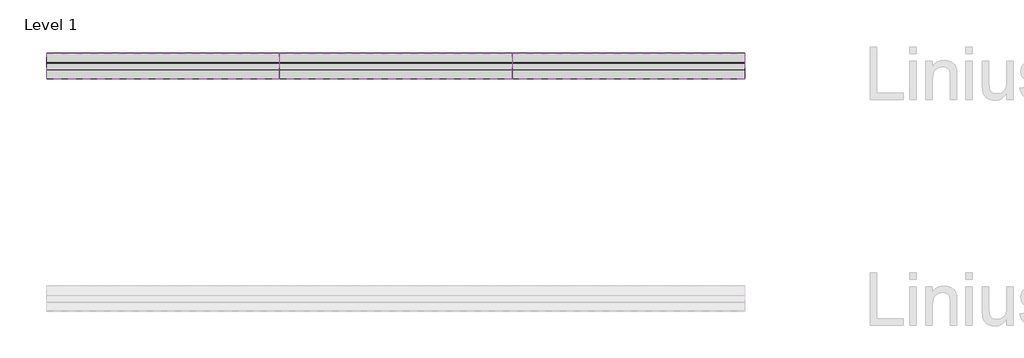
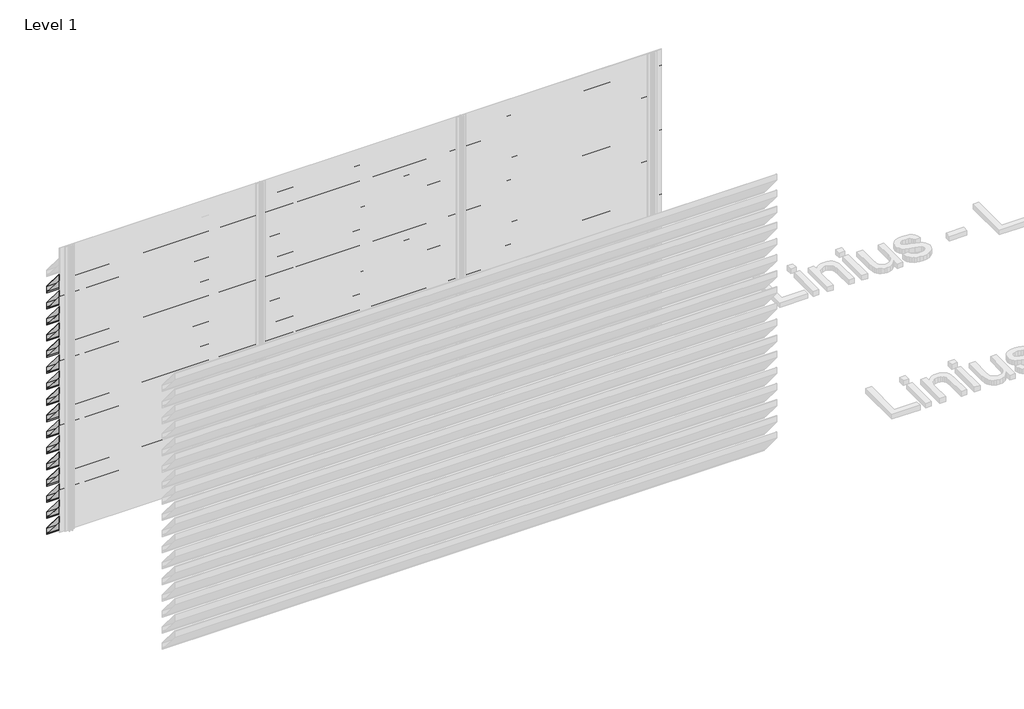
# One storey, part 8 of 121: 50 proxies.
"""IFC4 building model written with IfcOpenShell, lengths in millimetres."""

import ifcopenshell
import ifcopenshell.guid

model = None  # the IFC model being written
_history = None  # IfcOwnerHistory: only IFC2X3 demands one
_inside = {}  # id of a spatial element -> (the spatial element, [elements in it])
_under = {}  # id of a project, library or spatial element -> (it, [spatial elements below it])
_declared = {}  # id of a project -> (the project, [libraries it declares])
_typed = {}  # id of a type object -> (the type object, [elements of that type])
_made_of = {}  # id of a material, layer set ... -> (it, [elements and type objects made of it])


def new_model(schema):
    """Start an empty IFC model of exactly this schema.

    Asked for "IFC4X3", IfcOpenShell would pick the latest addendum, in which some entities
    have other attributes; the version numbers below select the first issue.
    IFC2X3 requires an IfcOwnerHistory on every rooted entity: one is made here for all.
    """
    global model, _history
    if schema == "IFC4X3":
        model = ifcopenshell.file(schema_version=(4, 3, 0, 0))
    else:
        model = ifcopenshell.file(schema=schema)
    _inside.clear()
    _under.clear()
    _declared.clear()
    _typed.clear()
    _made_of.clear()
    _history = None
    if model.schema == "IFC2X3":
        org = make("IfcOrganization", Name="unknown")
        user = make(
            "IfcPersonAndOrganization",
            ThePerson=make("IfcPerson", FamilyName="unknown"),
            TheOrganization=org,
        )
        app = make(
            "IfcApplication",
            ApplicationDeveloper=org,
            Version="unknown",
            ApplicationFullName="unknown",
            ApplicationIdentifier="unknown",
        )
        _history = make(
            "IfcOwnerHistory",
            OwningUser=user,
            OwningApplication=app,
            ChangeAction="ADDED",
            CreationDate=0,
        )
    return model


def make(cls, **values):
    """One entity of the class cls with the attributes given. An attribute that is None is left unset."""
    return model.create_entity(
        cls, **{name: value for name, value in values.items() if value is not None}
    )


def rooted(cls, **values):
    """An entity with a GlobalId (a new one), such as an element, a storey or a relation."""
    return make(cls, GlobalId=ifcopenshell.guid.new(), OwnerHistory=_history, **values)


def si_unit(unit_type, name, prefix=None):
    """IfcSIUnit, for example si_unit("LENGTHUNIT", "METRE", prefix="MILLI")."""
    return make("IfcSIUnit", UnitType=unit_type, Prefix=prefix, Name=name)


def assignment(units):
    """IfcUnitAssignment: the units of a project."""
    return None if units is None else make("IfcUnitAssignment", Units=units)


def point(xyz):
    """IfcCartesianPoint."""
    return None if xyz is None else make("IfcCartesianPoint", Coordinates=xyz)


def direction(xyz):
    """IfcDirection."""
    return None if xyz is None else make("IfcDirection", DirectionRatios=xyz)


def frame(location, z_axis=None, x_axis=None):
    """IfcAxis2Placement3D, a coordinate frame: its origin and axes. An axis left out is left unset."""
    return make(
        "IfcAxis2Placement3D",
        Location=point(location),
        Axis=direction(z_axis),
        RefDirection=direction(x_axis),
    )


def origin():
    """The frame at (0, 0, 0) with its axes left unset."""
    return frame((0.0, 0.0, 0.0))


def place(relative_to, where):
    """IfcLocalPlacement: puts the frame where relative to a parent placement (None: the world)."""
    return make(
        "IfcLocalPlacement", PlacementRelTo=relative_to, RelativePlacement=where
    )


def context(
    kind, dimensions, precision=None, world=None, true_north=None, identifier=None
):
    """IfcGeometricRepresentationContext, for example the 3D "Model" context."""
    return make(
        "IfcGeometricRepresentationContext",
        ContextIdentifier=identifier,
        ContextType=kind,
        CoordinateSpaceDimension=dimensions,
        Precision=precision,
        WorldCoordinateSystem=world,
        TrueNorth=true_north,
    )


def project(units=None, contexts=None):
    """IfcProject with its units and contexts."""
    return rooted(
        "IfcProject",
        Name="project",
        RepresentationContexts=contexts,
        UnitsInContext=assignment(units),
    )


def spatial(cls, under=None, at=None, **own):
    """A site, building, storey or space (cls), placed at a placement, below another one or the project."""
    s = rooted(cls, ObjectPlacement=at, **own)
    if under is not None:
        _under.setdefault(under.id(), (under, []))[1].append(s)
    return s


def polyline(points):
    """IfcPolyline through the points."""
    return make("IfcPolyline", Points=[point(p) for p in points])


def outline(outer, holes=None, kind="AREA"):
    """IfcArbitraryClosedProfileDef: a profile drawn as a closed curve; with holes, ...WithVoids."""
    if holes is None:
        return make("IfcArbitraryClosedProfileDef", ProfileType=kind, OuterCurve=outer)
    return make(
        "IfcArbitraryProfileDefWithVoids",
        ProfileType=kind,
        OuterCurve=outer,
        InnerCurves=holes,
    )


def extrude(swept, where, along, depth):
    """IfcExtrudedAreaSolid: the profile swept, set in the frame where, extruded along a direction by depth."""
    return make(
        "IfcExtrudedAreaSolid",
        SweptArea=swept,
        Position=where,
        ExtrudedDirection=direction(along),
        Depth=depth,
    )


def shape(context_of_items, identifier, shape_type, items):
    """IfcShapeRepresentation: the items that make up one representation, for example the "Body"."""
    return make(
        "IfcShapeRepresentation",
        ContextOfItems=context_of_items,
        RepresentationIdentifier=identifier,
        RepresentationType=shape_type,
        Items=items,
    )


def made_of(thing, what):
    """Note that an element or type object is made of a material, layer set ...; save() writes the relation."""
    if what is not None:
        _made_of.setdefault(what.id(), (what, []))[1].append(thing)
    return thing


def element(
    cls,
    number,
    at=None,
    inside=None,
    cuts=None,
    type_object=None,
    material=None,
    context=None,
    identifier="Body",
    shape_type=None,
    held_by="IfcProductDefinitionShape",
    body=None,
    shapes=None,
    **own,
):
    """One element of the class cls, such as IfcWall. Its Tag is "e" and its number.

    at: its placement. inside: the storey or other place that contains it. cuts: it is an
    opening in that element (IfcRelVoidsElement). A single representation is given by context,
    identifier, shape_type and body (its items); several are given by shapes. held_by: the class
    of the entity that holds the representations. save() writes the other relations.
    """
    e = rooted(cls, Tag="e%d" % number, ObjectPlacement=at, **own)
    if body is not None:
        shapes = [shape(context, identifier, shape_type, body)]
    if shapes is not None:
        e.Representation = make(held_by, Representations=shapes)
    if inside is not None:
        _inside.setdefault(inside.id(), (inside, []))[1].append(e)
    if cuts is not None:
        rooted(
            "IfcRelVoidsElement", RelatingBuildingElement=cuts, RelatedOpeningElement=e
        )
    if type_object is not None:
        _typed.setdefault(type_object.id(), (type_object, []))[1].append(e)
    return made_of(e, material)


def aggregate(whole, parts):
    """IfcRelAggregates: a whole, such as a stair, and the parts it consists of."""
    return rooted("IfcRelAggregates", RelatingObject=whole, RelatedObjects=parts)


def save(model, path):
    """Write the relations noted so far, then the file.

    IfcRelAggregates (storeys below a building ...), IfcRelContainedInSpatialStructure (elements
    in a storey), IfcRelDefinesByType, IfcRelAssociatesMaterial and IfcRelDeclares: one each for
    every whole, place, type object, material and project.
    """
    for whole, parts in _under.values():
        aggregate(whole, parts)
    for where, things in _inside.values():
        rooted(
            "IfcRelContainedInSpatialStructure",
            RelatedElements=things,
            RelatingStructure=where,
        )
    for kind, things in _typed.values():
        rooted("IfcRelDefinesByType", RelatedObjects=things, RelatingType=kind)
    for what, things in _made_of.values():
        rooted("IfcRelAssociatesMaterial", RelatedObjects=things, RelatingMaterial=what)
    for by, libraries in _declared.values():
        rooted("IfcRelDeclares", RelatingContext=by, RelatedDefinitions=libraries)
    model.write(path)


model = new_model("IFC4")

# Units and contexts
model_context = context("Model", 3, world=origin())
ifc_project = project(units=[si_unit("LENGTHUNIT", "METRE", prefix="MILLI")], contexts=[model_context])

# Site, building, storey
site = spatial("IfcSite", under=ifc_project)
building = spatial("IfcBuilding", under=site)
storey = spatial("IfcBuildingStorey", under=building, Name="Level 1", Elevation=0.0)

# Proxies
placement = place(None, origin())
element("IfcBuildingElementProxy", 1, Name="Wall Sweeps", at=placement, inside=storey, context=model_context, shape_type="SweptSolid", body=[
    extrude(outline(polyline([(7209.0270068, 2461.0), (7209.0270068, 2392.0), (7206.5270068, 2393.1657691), (7206.5270068, 2406.7059843), (7189.7771397, 2426.6676986), (7179.0919003, 2426.6676986), (6987.0270068, 2655.5617253), (6987.0270068, 2720.0), (6991.7002023, 2720.0), (7209.0270068, 2461.0)]), holes=[polyline([(6990.8142178, 2718.1), (6988.9270068, 2718.1), (6988.9270068, 2656.2532688), (7179.9778848, 2428.5676986), (7190.6631243, 2428.5676986), (7207.1270068, 2408.9468074), (7207.1270068, 2460.3084566), (6990.8142178, 2718.1)])]), frame((466.6208097, 0.0, 0.0), z_axis=(1.0, 0.0, 0.0), x_axis=(0.0, 1.0, 0.0)), (0.0, 0.0, 1.0), 2000.0),
])
element("IfcBuildingElementProxy", 2, Name="Wall Sweeps", at=placement, inside=storey, context=model_context, shape_type="SweptSolid", body=[
    extrude(outline(polyline([(7209.0270068, 2291.0), (7209.0270068, 2222.0), (7206.5270068, 2223.1657691), (7206.5270068, 2236.7059843), (7189.7771397, 2256.6676986), (7179.0919003, 2256.6676986), (6987.0270068, 2485.5617253), (6987.0270068, 2550.0), (6991.7002023, 2550.0), (7209.0270068, 2291.0)]), holes=[polyline([(6990.8142178, 2548.1), (6988.9270068, 2548.1), (6988.9270068, 2486.2532688), (7179.9778848, 2258.5676986), (7190.6631243, 2258.5676986), (7207.1270068, 2238.9468074), (7207.1270068, 2290.3084566), (6990.8142178, 2548.1)])]), frame((466.6208097, 0.0, 0.0), z_axis=(1.0, 0.0, 0.0), x_axis=(0.0, 1.0, 0.0)), (0.0, 0.0, 1.0), 2000.0),
])
element("IfcBuildingElementProxy", 3, Name="Wall Sweeps", at=placement, inside=storey, context=model_context, shape_type="SweptSolid", body=[
    extrude(outline(polyline([(7209.0270068, 2121.0), (7209.0270068, 2052.0), (7206.5270068, 2053.1657691), (7206.5270068, 2066.7059843), (7189.7771397, 2086.6676986), (7179.0919003, 2086.6676986), (6987.0270068, 2315.5617253), (6987.0270068, 2380.0), (6991.7002023, 2380.0), (7209.0270068, 2121.0)]), holes=[polyline([(6990.8142178, 2378.1), (6988.9270068, 2378.1), (6988.9270068, 2316.2532688), (7179.9778848, 2088.5676986), (7190.6631243, 2088.5676986), (7207.1270068, 2068.9468074), (7207.1270068, 2120.3084566), (6990.8142178, 2378.1)])]), frame((466.6208097, 0.0, 0.0), z_axis=(1.0, 0.0, 0.0), x_axis=(0.0, 1.0, 0.0)), (0.0, 0.0, 1.0), 2000.0),
])
element("IfcBuildingElementProxy", 4, Name="Wall Sweeps", at=placement, inside=storey, context=model_context, shape_type="SweptSolid", body=[
    extrude(outline(polyline([(7209.0270068, 1951.0), (7209.0270068, 1882.0), (7206.5270068, 1883.1657691), (7206.5270068, 1896.7059843), (7189.7771397, 1916.6676986), (7179.0919003, 1916.6676986), (6987.0270068, 2145.5617253), (6987.0270068, 2210.0), (6991.7002023, 2210.0), (7209.0270068, 1951.0)]), holes=[polyline([(6990.8142178, 2208.1), (6988.9270068, 2208.1), (6988.9270068, 2146.2532688), (7179.9778848, 1918.5676986), (7190.6631243, 1918.5676986), (7207.1270068, 1898.9468074), (7207.1270068, 1950.3084566), (6990.8142178, 2208.1)])]), frame((466.6208097, 0.0, 0.0), z_axis=(1.0, 0.0, 0.0), x_axis=(0.0, 1.0, 0.0)), (0.0, 0.0, 1.0), 2000.0),
])
element("IfcBuildingElementProxy", 5, Name="Wall Sweeps", at=placement, inside=storey, context=model_context, shape_type="SweptSolid", body=[
    extrude(outline(polyline([(7209.0270068, 1781.0), (7209.0270068, 1712.0), (7206.5270068, 1713.1657691), (7206.5270068, 1726.7059843), (7189.7771397, 1746.6676986), (7179.0919003, 1746.6676986), (6987.0270068, 1975.5617253), (6987.0270068, 2040.0), (6991.7002023, 2040.0), (7209.0270068, 1781.0)]), holes=[polyline([(6990.8142178, 2038.1), (6988.9270068, 2038.1), (6988.9270068, 1976.2532688), (7179.9778848, 1748.5676986), (7190.6631243, 1748.5676986), (7207.1270068, 1728.9468074), (7207.1270068, 1780.3084566), (6990.8142178, 2038.1)])]), frame((466.6208097, 0.0, 0.0), z_axis=(1.0, 0.0, 0.0), x_axis=(0.0, 1.0, 0.0)), (0.0, 0.0, 1.0), 2000.0),
])
element("IfcBuildingElementProxy", 6, Name="Wall Sweeps", at=placement, inside=storey, context=model_context, shape_type="SweptSolid", body=[
    extrude(outline(polyline([(7209.0270068, 1611.0), (7209.0270068, 1542.0), (7206.5270068, 1543.1657691), (7206.5270068, 1556.7059843), (7189.7771397, 1576.6676986), (7179.0919003, 1576.6676986), (6987.0270068, 1805.5617253), (6987.0270068, 1870.0), (6991.7002023, 1870.0), (7209.0270068, 1611.0)]), holes=[polyline([(6990.8142178, 1868.1), (6988.9270068, 1868.1), (6988.9270068, 1806.2532688), (7179.9778848, 1578.5676986), (7190.6631243, 1578.5676986), (7207.1270068, 1558.9468074), (7207.1270068, 1610.3084566), (6990.8142178, 1868.1)])]), frame((466.6208097, 0.0, 0.0), z_axis=(1.0, 0.0, 0.0), x_axis=(0.0, 1.0, 0.0)), (0.0, 0.0, 1.0), 2000.0),
])
element("IfcBuildingElementProxy", 7, Name="Wall Sweeps", at=placement, inside=storey, context=model_context, shape_type="SweptSolid", body=[
    extrude(outline(polyline([(7209.0270068, 1441.0), (7209.0270068, 1372.0), (7206.5270068, 1373.1657691), (7206.5270068, 1386.7059843), (7189.7771397, 1406.6676986), (7179.0919003, 1406.6676986), (6987.0270068, 1635.5617253), (6987.0270068, 1700.0), (6991.7002023, 1700.0), (7209.0270068, 1441.0)]), holes=[polyline([(6990.8142178, 1698.1), (6988.9270068, 1698.1), (6988.9270068, 1636.2532688), (7179.9778848, 1408.5676986), (7190.6631243, 1408.5676986), (7207.1270068, 1388.9468074), (7207.1270068, 1440.3084566), (6990.8142178, 1698.1)])]), frame((466.6208097, 0.0, 0.0), z_axis=(1.0, 0.0, 0.0), x_axis=(0.0, 1.0, 0.0)), (0.0, 0.0, 1.0), 2000.0),
])
element("IfcBuildingElementProxy", 8, Name="Wall Sweeps", at=placement, inside=storey, context=model_context, shape_type="SweptSolid", body=[
    extrude(outline(polyline([(7209.0270068, 1271.0), (7209.0270068, 1202.0), (7206.5270068, 1203.1657691), (7206.5270068, 1216.7059843), (7189.7771397, 1236.6676986), (7179.0919003, 1236.6676986), (6987.0270068, 1465.5617253), (6987.0270068, 1530.0), (6991.7002023, 1530.0), (7209.0270068, 1271.0)]), holes=[polyline([(6990.8142178, 1528.1), (6988.9270068, 1528.1), (6988.9270068, 1466.2532688), (7179.9778848, 1238.5676986), (7190.6631243, 1238.5676986), (7207.1270068, 1218.9468074), (7207.1270068, 1270.3084566), (6990.8142178, 1528.1)])]), frame((466.6208097, 0.0, 0.0), z_axis=(1.0, 0.0, 0.0), x_axis=(0.0, 1.0, 0.0)), (0.0, 0.0, 1.0), 2000.0),
])
element("IfcBuildingElementProxy", 9, Name="Wall Sweeps", at=placement, inside=storey, context=model_context, shape_type="SweptSolid", body=[
    extrude(outline(polyline([(7209.0270068, 1101.0), (7209.0270068, 1032.0), (7206.5270068, 1033.1657691), (7206.5270068, 1046.7059843), (7189.7771397, 1066.6676986), (7179.0919003, 1066.6676986), (6987.0270068, 1295.5617253), (6987.0270068, 1360.0), (6991.7002023, 1360.0), (7209.0270068, 1101.0)]), holes=[polyline([(6990.8142178, 1358.1), (6988.9270068, 1358.1), (6988.9270068, 1296.2532688), (7179.9778848, 1068.5676986), (7190.6631243, 1068.5676986), (7207.1270068, 1048.9468074), (7207.1270068, 1100.3084566), (6990.8142178, 1358.1)])]), frame((466.6208097, 0.0, 0.0), z_axis=(1.0, 0.0, 0.0), x_axis=(0.0, 1.0, 0.0)), (0.0, 0.0, 1.0), 2000.0),
])
element("IfcBuildingElementProxy", 10, Name="Wall Sweeps", at=placement, inside=storey, context=model_context, shape_type="SweptSolid", body=[
    extrude(outline(polyline([(7209.0270068, 931.0), (7209.0270068, 862.0), (7206.5270068, 863.1657691), (7206.5270068, 876.7059843), (7189.7771397, 896.6676986), (7179.0919003, 896.6676986), (6987.0270068, 1125.5617253), (6987.0270068, 1190.0), (6991.7002023, 1190.0), (7209.0270068, 931.0)]), holes=[polyline([(6990.8142178, 1188.1), (6988.9270068, 1188.1), (6988.9270068, 1126.2532688), (7179.9778848, 898.5676986), (7190.6631243, 898.5676986), (7207.1270068, 878.9468074), (7207.1270068, 930.3084566), (6990.8142178, 1188.1)])]), frame((466.6208097, 0.0, 0.0), z_axis=(1.0, 0.0, 0.0), x_axis=(0.0, 1.0, 0.0)), (0.0, 0.0, 1.0), 2000.0),
])
element("IfcBuildingElementProxy", 11, Name="Wall Sweeps", at=placement, inside=storey, context=model_context, shape_type="SweptSolid", body=[
    extrude(outline(polyline([(7209.0270068, 761.0), (7209.0270068, 692.0), (7206.5270068, 693.1657691), (7206.5270068, 706.7059843), (7189.7771397, 726.6676986), (7179.0919003, 726.6676986), (6987.0270068, 955.5617253), (6987.0270068, 1020.0), (6991.7002023, 1020.0), (7209.0270068, 761.0)]), holes=[polyline([(6990.8142178, 1018.1), (6988.9270068, 1018.1), (6988.9270068, 956.2532688), (7179.9778848, 728.5676986), (7190.6631243, 728.5676986), (7207.1270068, 708.9468074), (7207.1270068, 760.3084566), (6990.8142178, 1018.1)])]), frame((466.6208097, 0.0, 0.0), z_axis=(1.0, 0.0, 0.0), x_axis=(0.0, 1.0, 0.0)), (0.0, 0.0, 1.0), 2000.0),
])
element("IfcBuildingElementProxy", 12, Name="Wall Sweeps", at=placement, inside=storey, context=model_context, shape_type="SweptSolid", body=[
    extrude(outline(polyline([(7209.0270068, 591.0), (7209.0270068, 522.0), (7206.5270068, 523.1657691), (7206.5270068, 536.7059843), (7189.7771397, 556.6676986), (7179.0919003, 556.6676986), (6987.0270068, 785.5617253), (6987.0270068, 850.0), (6991.7002023, 850.0), (7209.0270068, 591.0)]), holes=[polyline([(6990.8142178, 848.1), (6988.9270068, 848.1), (6988.9270068, 786.2532688), (7179.9778848, 558.5676986), (7190.6631243, 558.5676986), (7207.1270068, 538.9468074), (7207.1270068, 590.3084566), (6990.8142178, 848.1)])]), frame((466.6208097, 0.0, 0.0), z_axis=(1.0, 0.0, 0.0), x_axis=(0.0, 1.0, 0.0)), (0.0, 0.0, 1.0), 2000.0),
])
element("IfcBuildingElementProxy", 13, Name="Wall Sweeps", at=placement, inside=storey, context=model_context, shape_type="SweptSolid", body=[
    extrude(outline(polyline([(7209.0270068, 421.0), (7209.0270068, 352.0), (7206.5270068, 353.1657691), (7206.5270068, 366.7059843), (7189.7771397, 386.6676986), (7179.0919003, 386.6676986), (6987.0270068, 615.5617253), (6987.0270068, 680.0), (6991.7002023, 680.0), (7209.0270068, 421.0)]), holes=[polyline([(6990.8142178, 678.1), (6988.9270068, 678.1), (6988.9270068, 616.2532688), (7179.9778848, 388.5676986), (7190.6631243, 388.5676986), (7207.1270068, 368.9468074), (7207.1270068, 420.3084566), (6990.8142178, 678.1)])]), frame((466.6208097, 0.0, 0.0), z_axis=(1.0, 0.0, 0.0), x_axis=(0.0, 1.0, 0.0)), (0.0, 0.0, 1.0), 2000.0),
])
element("IfcBuildingElementProxy", 14, Name="Wall Sweeps", at=placement, inside=storey, context=model_context, shape_type="SweptSolid", body=[
    extrude(outline(polyline([(7209.0270068, 251.0), (7209.0270068, 182.0), (7206.5270068, 183.1657691), (7206.5270068, 196.7059843), (7189.7771397, 216.6676986), (7179.0919003, 216.6676986), (6987.0270068, 445.5617253), (6987.0270068, 510.0), (6991.7002023, 510.0), (7209.0270068, 251.0)]), holes=[polyline([(6990.8142178, 508.1), (6988.9270068, 508.1), (6988.9270068, 446.2532688), (7179.9778848, 218.5676986), (7190.6631243, 218.5676986), (7207.1270068, 198.9468074), (7207.1270068, 250.3084566), (6990.8142178, 508.1)])]), frame((466.6208097, 0.0, 0.0), z_axis=(1.0, 0.0, 0.0), x_axis=(0.0, 1.0, 0.0)), (0.0, 0.0, 1.0), 2000.0),
])
element("IfcBuildingElementProxy", 15, Name="Wall Sweeps", at=placement, inside=storey, context=model_context, shape_type="SweptSolid", body=[
    extrude(outline(polyline([(7209.0270068, 81.0), (7209.0270068, 12.0), (7206.5270068, 13.1657691), (7206.5270068, 26.7059843), (7189.7771397, 46.6676986), (7179.0919003, 46.6676986), (6987.0270068, 275.5617253), (6987.0270068, 340.0), (6991.7002023, 340.0), (7209.0270068, 81.0)]), holes=[polyline([(6990.8142178, 338.1), (6988.9270068, 338.1), (6988.9270068, 276.2532688), (7179.9778848, 48.5676986), (7190.6631243, 48.5676986), (7207.1270068, 28.9468074), (7207.1270068, 80.3084566), (6990.8142178, 338.1)])]), frame((466.6208097, 0.0, 0.0), z_axis=(1.0, 0.0, 0.0), x_axis=(0.0, 1.0, 0.0)), (0.0, 0.0, 1.0), 2000.0),
])
element("IfcBuildingElementProxy", 16, Name="Wall Sweeps", at=placement, inside=storey, context=model_context, shape_type="SweptSolid", body=[
    extrude(outline(polyline([(7209.0270068, -89.0), (7209.0270068, -158.0), (7206.5270068, -156.8342309), (7206.5270068, -143.2940157), (7189.7771397, -123.3323014), (7179.0919003, -123.3323014), (6987.0270068, 105.5617253), (6987.0270068, 170.0), (6991.7002023, 170.0), (7209.0270068, -89.0)]), holes=[polyline([(6990.8142178, 168.1), (6988.9270068, 168.1), (6988.9270068, 106.2532688), (7179.9778848, -121.4323014), (7190.6631243, -121.4323014), (7207.1270068, -141.0531926), (7207.1270068, -89.6915434), (6990.8142178, 168.1)])]), frame((466.6208097, 0.0, 0.0), z_axis=(1.0, 0.0, 0.0), x_axis=(0.0, 1.0, 0.0)), (0.0, 0.0, 1.0), 2000.0),
])
element("IfcBuildingElementProxy", 17, Name="Wall Sweeps", at=placement, inside=storey, context=model_context, shape_type="SweptSolid", body=[
    extrude(outline(polyline([(7209.0270068, 2631.0), (7209.0270068, 2562.0), (7206.5270068, 2563.1657691), (7206.5270068, 2576.7059843), (7189.7771397, 2596.6676986), (7179.0919003, 2596.6676986), (6987.0270068, 2825.5617253), (6987.0270068, 2890.0), (6991.7002023, 2890.0), (7209.0270068, 2631.0)]), holes=[polyline([(6990.8142178, 2888.1), (6988.9270068, 2888.1), (6988.9270068, 2826.2532688), (7179.9778848, 2598.5676986), (7190.6631243, 2598.5676986), (7207.1270068, 2578.9468074), (7207.1270068, 2630.3084566), (6990.8142178, 2888.1)])]), frame((2466.6208097, 0.0, 0.0), z_axis=(1.0, 0.0, 0.0), x_axis=(0.0, 1.0, 0.0)), (0.0, 0.0, 1.0), 2000.0),
])
element("IfcBuildingElementProxy", 18, Name="Wall Sweeps", at=placement, inside=storey, context=model_context, shape_type="SweptSolid", body=[
    extrude(outline(polyline([(7209.0270068, 2461.0), (7209.0270068, 2392.0), (7206.5270068, 2393.1657691), (7206.5270068, 2406.7059843), (7189.7771397, 2426.6676986), (7179.0919003, 2426.6676986), (6987.0270068, 2655.5617253), (6987.0270068, 2720.0), (6991.7002023, 2720.0), (7209.0270068, 2461.0)]), holes=[polyline([(6990.8142178, 2718.1), (6988.9270068, 2718.1), (6988.9270068, 2656.2532688), (7179.9778848, 2428.5676986), (7190.6631243, 2428.5676986), (7207.1270068, 2408.9468074), (7207.1270068, 2460.3084566), (6990.8142178, 2718.1)])]), frame((2466.6208097, 0.0, 0.0), z_axis=(1.0, 0.0, 0.0), x_axis=(0.0, 1.0, 0.0)), (0.0, 0.0, 1.0), 2000.0),
])
element("IfcBuildingElementProxy", 19, Name="Wall Sweeps", at=placement, inside=storey, context=model_context, shape_type="SweptSolid", body=[
    extrude(outline(polyline([(7209.0270068, 2291.0), (7209.0270068, 2222.0), (7206.5270068, 2223.1657691), (7206.5270068, 2236.7059843), (7189.7771397, 2256.6676986), (7179.0919003, 2256.6676986), (6987.0270068, 2485.5617253), (6987.0270068, 2550.0), (6991.7002023, 2550.0), (7209.0270068, 2291.0)]), holes=[polyline([(6990.8142178, 2548.1), (6988.9270068, 2548.1), (6988.9270068, 2486.2532688), (7179.9778848, 2258.5676986), (7190.6631243, 2258.5676986), (7207.1270068, 2238.9468074), (7207.1270068, 2290.3084566), (6990.8142178, 2548.1)])]), frame((2466.6208097, 0.0, 0.0), z_axis=(1.0, 0.0, 0.0), x_axis=(0.0, 1.0, 0.0)), (0.0, 0.0, 1.0), 2000.0),
])
element("IfcBuildingElementProxy", 20, Name="Wall Sweeps", at=placement, inside=storey, context=model_context, shape_type="SweptSolid", body=[
    extrude(outline(polyline([(7209.0270068, 2121.0), (7209.0270068, 2052.0), (7206.5270068, 2053.1657691), (7206.5270068, 2066.7059843), (7189.7771397, 2086.6676986), (7179.0919003, 2086.6676986), (6987.0270068, 2315.5617253), (6987.0270068, 2380.0), (6991.7002023, 2380.0), (7209.0270068, 2121.0)]), holes=[polyline([(6990.8142178, 2378.1), (6988.9270068, 2378.1), (6988.9270068, 2316.2532688), (7179.9778848, 2088.5676986), (7190.6631243, 2088.5676986), (7207.1270068, 2068.9468074), (7207.1270068, 2120.3084566), (6990.8142178, 2378.1)])]), frame((2466.6208097, 0.0, 0.0), z_axis=(1.0, 0.0, 0.0), x_axis=(0.0, 1.0, 0.0)), (0.0, 0.0, 1.0), 2000.0),
])
element("IfcBuildingElementProxy", 21, Name="Wall Sweeps", at=placement, inside=storey, context=model_context, shape_type="SweptSolid", body=[
    extrude(outline(polyline([(7209.0270068, 1951.0), (7209.0270068, 1882.0), (7206.5270068, 1883.1657691), (7206.5270068, 1896.7059843), (7189.7771397, 1916.6676986), (7179.0919003, 1916.6676986), (6987.0270068, 2145.5617253), (6987.0270068, 2210.0), (6991.7002023, 2210.0), (7209.0270068, 1951.0)]), holes=[polyline([(6990.8142178, 2208.1), (6988.9270068, 2208.1), (6988.9270068, 2146.2532688), (7179.9778848, 1918.5676986), (7190.6631243, 1918.5676986), (7207.1270068, 1898.9468074), (7207.1270068, 1950.3084566), (6990.8142178, 2208.1)])]), frame((2466.6208097, 0.0, 0.0), z_axis=(1.0, 0.0, 0.0), x_axis=(0.0, 1.0, 0.0)), (0.0, 0.0, 1.0), 2000.0),
])
element("IfcBuildingElementProxy", 22, Name="Wall Sweeps", at=placement, inside=storey, context=model_context, shape_type="SweptSolid", body=[
    extrude(outline(polyline([(7209.0270068, 1781.0), (7209.0270068, 1712.0), (7206.5270068, 1713.1657691), (7206.5270068, 1726.7059843), (7189.7771397, 1746.6676986), (7179.0919003, 1746.6676986), (6987.0270068, 1975.5617253), (6987.0270068, 2040.0), (6991.7002023, 2040.0), (7209.0270068, 1781.0)]), holes=[polyline([(6990.8142178, 2038.1), (6988.9270068, 2038.1), (6988.9270068, 1976.2532688), (7179.9778848, 1748.5676986), (7190.6631243, 1748.5676986), (7207.1270068, 1728.9468074), (7207.1270068, 1780.3084566), (6990.8142178, 2038.1)])]), frame((2466.6208097, 0.0, 0.0), z_axis=(1.0, 0.0, 0.0), x_axis=(0.0, 1.0, 0.0)), (0.0, 0.0, 1.0), 2000.0),
])
element("IfcBuildingElementProxy", 23, Name="Wall Sweeps", at=placement, inside=storey, context=model_context, shape_type="SweptSolid", body=[
    extrude(outline(polyline([(7209.0270068, 1611.0), (7209.0270068, 1542.0), (7206.5270068, 1543.1657691), (7206.5270068, 1556.7059843), (7189.7771397, 1576.6676986), (7179.0919003, 1576.6676986), (6987.0270068, 1805.5617253), (6987.0270068, 1870.0), (6991.7002023, 1870.0), (7209.0270068, 1611.0)]), holes=[polyline([(6990.8142178, 1868.1), (6988.9270068, 1868.1), (6988.9270068, 1806.2532688), (7179.9778848, 1578.5676986), (7190.6631243, 1578.5676986), (7207.1270068, 1558.9468074), (7207.1270068, 1610.3084566), (6990.8142178, 1868.1)])]), frame((2466.6208097, 0.0, 0.0), z_axis=(1.0, 0.0, 0.0), x_axis=(0.0, 1.0, 0.0)), (0.0, 0.0, 1.0), 2000.0),
])
element("IfcBuildingElementProxy", 24, Name="Wall Sweeps", at=placement, inside=storey, context=model_context, shape_type="SweptSolid", body=[
    extrude(outline(polyline([(7209.0270068, 1441.0), (7209.0270068, 1372.0), (7206.5270068, 1373.1657691), (7206.5270068, 1386.7059843), (7189.7771397, 1406.6676986), (7179.0919003, 1406.6676986), (6987.0270068, 1635.5617253), (6987.0270068, 1700.0), (6991.7002023, 1700.0), (7209.0270068, 1441.0)]), holes=[polyline([(6990.8142178, 1698.1), (6988.9270068, 1698.1), (6988.9270068, 1636.2532688), (7179.9778848, 1408.5676986), (7190.6631243, 1408.5676986), (7207.1270068, 1388.9468074), (7207.1270068, 1440.3084566), (6990.8142178, 1698.1)])]), frame((2466.6208097, 0.0, 0.0), z_axis=(1.0, 0.0, 0.0), x_axis=(0.0, 1.0, 0.0)), (0.0, 0.0, 1.0), 2000.0),
])
element("IfcBuildingElementProxy", 25, Name="Wall Sweeps", at=placement, inside=storey, context=model_context, shape_type="SweptSolid", body=[
    extrude(outline(polyline([(7209.0270068, 1271.0), (7209.0270068, 1202.0), (7206.5270068, 1203.1657691), (7206.5270068, 1216.7059843), (7189.7771397, 1236.6676986), (7179.0919003, 1236.6676986), (6987.0270068, 1465.5617253), (6987.0270068, 1530.0), (6991.7002023, 1530.0), (7209.0270068, 1271.0)]), holes=[polyline([(6990.8142178, 1528.1), (6988.9270068, 1528.1), (6988.9270068, 1466.2532688), (7179.9778848, 1238.5676986), (7190.6631243, 1238.5676986), (7207.1270068, 1218.9468074), (7207.1270068, 1270.3084566), (6990.8142178, 1528.1)])]), frame((2466.6208097, 0.0, 0.0), z_axis=(1.0, 0.0, 0.0), x_axis=(0.0, 1.0, 0.0)), (0.0, 0.0, 1.0), 2000.0),
])
element("IfcBuildingElementProxy", 26, Name="Wall Sweeps", at=placement, inside=storey, context=model_context, shape_type="SweptSolid", body=[
    extrude(outline(polyline([(7209.0270068, 1101.0), (7209.0270068, 1032.0), (7206.5270068, 1033.1657691), (7206.5270068, 1046.7059843), (7189.7771397, 1066.6676986), (7179.0919003, 1066.6676986), (6987.0270068, 1295.5617253), (6987.0270068, 1360.0), (6991.7002023, 1360.0), (7209.0270068, 1101.0)]), holes=[polyline([(6990.8142178, 1358.1), (6988.9270068, 1358.1), (6988.9270068, 1296.2532688), (7179.9778848, 1068.5676986), (7190.6631243, 1068.5676986), (7207.1270068, 1048.9468074), (7207.1270068, 1100.3084566), (6990.8142178, 1358.1)])]), frame((2466.6208097, 0.0, 0.0), z_axis=(1.0, 0.0, 0.0), x_axis=(0.0, 1.0, 0.0)), (0.0, 0.0, 1.0), 2000.0),
])
element("IfcBuildingElementProxy", 27, Name="Wall Sweeps", at=placement, inside=storey, context=model_context, shape_type="SweptSolid", body=[
    extrude(outline(polyline([(7209.0270068, 931.0), (7209.0270068, 862.0), (7206.5270068, 863.1657691), (7206.5270068, 876.7059843), (7189.7771397, 896.6676986), (7179.0919003, 896.6676986), (6987.0270068, 1125.5617253), (6987.0270068, 1190.0), (6991.7002023, 1190.0), (7209.0270068, 931.0)]), holes=[polyline([(6990.8142178, 1188.1), (6988.9270068, 1188.1), (6988.9270068, 1126.2532688), (7179.9778848, 898.5676986), (7190.6631243, 898.5676986), (7207.1270068, 878.9468074), (7207.1270068, 930.3084566), (6990.8142178, 1188.1)])]), frame((2466.6208097, 0.0, 0.0), z_axis=(1.0, 0.0, 0.0), x_axis=(0.0, 1.0, 0.0)), (0.0, 0.0, 1.0), 2000.0),
])
element("IfcBuildingElementProxy", 28, Name="Wall Sweeps", at=placement, inside=storey, context=model_context, shape_type="SweptSolid", body=[
    extrude(outline(polyline([(7209.0270068, 761.0), (7209.0270068, 692.0), (7206.5270068, 693.1657691), (7206.5270068, 706.7059843), (7189.7771397, 726.6676986), (7179.0919003, 726.6676986), (6987.0270068, 955.5617253), (6987.0270068, 1020.0), (6991.7002023, 1020.0), (7209.0270068, 761.0)]), holes=[polyline([(6990.8142178, 1018.1), (6988.9270068, 1018.1), (6988.9270068, 956.2532688), (7179.9778848, 728.5676986), (7190.6631243, 728.5676986), (7207.1270068, 708.9468074), (7207.1270068, 760.3084566), (6990.8142178, 1018.1)])]), frame((2466.6208097, 0.0, 0.0), z_axis=(1.0, 0.0, 0.0), x_axis=(0.0, 1.0, 0.0)), (0.0, 0.0, 1.0), 2000.0),
])
element("IfcBuildingElementProxy", 29, Name="Wall Sweeps", at=placement, inside=storey, context=model_context, shape_type="SweptSolid", body=[
    extrude(outline(polyline([(7209.0270068, 591.0), (7209.0270068, 522.0), (7206.5270068, 523.1657691), (7206.5270068, 536.7059843), (7189.7771397, 556.6676986), (7179.0919003, 556.6676986), (6987.0270068, 785.5617253), (6987.0270068, 850.0), (6991.7002023, 850.0), (7209.0270068, 591.0)]), holes=[polyline([(6990.8142178, 848.1), (6988.9270068, 848.1), (6988.9270068, 786.2532688), (7179.9778848, 558.5676986), (7190.6631243, 558.5676986), (7207.1270068, 538.9468074), (7207.1270068, 590.3084566), (6990.8142178, 848.1)])]), frame((2466.6208097, 0.0, 0.0), z_axis=(1.0, 0.0, 0.0), x_axis=(0.0, 1.0, 0.0)), (0.0, 0.0, 1.0), 2000.0),
])
element("IfcBuildingElementProxy", 30, Name="Wall Sweeps", at=placement, inside=storey, context=model_context, shape_type="SweptSolid", body=[
    extrude(outline(polyline([(7209.0270068, 421.0), (7209.0270068, 352.0), (7206.5270068, 353.1657691), (7206.5270068, 366.7059843), (7189.7771397, 386.6676986), (7179.0919003, 386.6676986), (6987.0270068, 615.5617253), (6987.0270068, 680.0), (6991.7002023, 680.0), (7209.0270068, 421.0)]), holes=[polyline([(6990.8142178, 678.1), (6988.9270068, 678.1), (6988.9270068, 616.2532688), (7179.9778848, 388.5676986), (7190.6631243, 388.5676986), (7207.1270068, 368.9468074), (7207.1270068, 420.3084566), (6990.8142178, 678.1)])]), frame((2466.6208097, 0.0, 0.0), z_axis=(1.0, 0.0, 0.0), x_axis=(0.0, 1.0, 0.0)), (0.0, 0.0, 1.0), 2000.0),
])
element("IfcBuildingElementProxy", 31, Name="Wall Sweeps", at=placement, inside=storey, context=model_context, shape_type="SweptSolid", body=[
    extrude(outline(polyline([(7209.0270068, 251.0), (7209.0270068, 182.0), (7206.5270068, 183.1657691), (7206.5270068, 196.7059843), (7189.7771397, 216.6676986), (7179.0919003, 216.6676986), (6987.0270068, 445.5617253), (6987.0270068, 510.0), (6991.7002023, 510.0), (7209.0270068, 251.0)]), holes=[polyline([(6990.8142178, 508.1), (6988.9270068, 508.1), (6988.9270068, 446.2532688), (7179.9778848, 218.5676986), (7190.6631243, 218.5676986), (7207.1270068, 198.9468074), (7207.1270068, 250.3084566), (6990.8142178, 508.1)])]), frame((2466.6208097, 0.0, 0.0), z_axis=(1.0, 0.0, 0.0), x_axis=(0.0, 1.0, 0.0)), (0.0, 0.0, 1.0), 2000.0),
])
element("IfcBuildingElementProxy", 32, Name="Wall Sweeps", at=placement, inside=storey, context=model_context, shape_type="SweptSolid", body=[
    extrude(outline(polyline([(7209.0270068, 81.0), (7209.0270068, 12.0), (7206.5270068, 13.1657691), (7206.5270068, 26.7059843), (7189.7771397, 46.6676986), (7179.0919003, 46.6676986), (6987.0270068, 275.5617253), (6987.0270068, 340.0), (6991.7002023, 340.0), (7209.0270068, 81.0)]), holes=[polyline([(6990.8142178, 338.1), (6988.9270068, 338.1), (6988.9270068, 276.2532688), (7179.9778848, 48.5676986), (7190.6631243, 48.5676986), (7207.1270068, 28.9468074), (7207.1270068, 80.3084566), (6990.8142178, 338.1)])]), frame((2466.6208097, 0.0, 0.0), z_axis=(1.0, 0.0, 0.0), x_axis=(0.0, 1.0, 0.0)), (0.0, 0.0, 1.0), 2000.0),
])
element("IfcBuildingElementProxy", 33, Name="Wall Sweeps", at=placement, inside=storey, context=model_context, shape_type="SweptSolid", body=[
    extrude(outline(polyline([(7209.0270068, -89.0), (7209.0270068, -158.0), (7206.5270068, -156.8342309), (7206.5270068, -143.2940157), (7189.7771397, -123.3323014), (7179.0919003, -123.3323014), (6987.0270068, 105.5617253), (6987.0270068, 170.0), (6991.7002023, 170.0), (7209.0270068, -89.0)]), holes=[polyline([(6990.8142178, 168.1), (6988.9270068, 168.1), (6988.9270068, 106.2532688), (7179.9778848, -121.4323014), (7190.6631243, -121.4323014), (7207.1270068, -141.0531926), (7207.1270068, -89.6915434), (6990.8142178, 168.1)])]), frame((2466.6208097, 0.0, 0.0), z_axis=(1.0, 0.0, 0.0), x_axis=(0.0, 1.0, 0.0)), (0.0, 0.0, 1.0), 2000.0),
])
element("IfcBuildingElementProxy", 34, Name="Wall Sweeps", at=placement, inside=storey, context=model_context, shape_type="SweptSolid", body=[
    extrude(outline(polyline([(7209.0270068, 2631.0), (7209.0270068, 2562.0), (7206.5270068, 2563.1657691), (7206.5270068, 2576.7059843), (7189.7771397, 2596.6676986), (7179.0919003, 2596.6676986), (6987.0270068, 2825.5617253), (6987.0270068, 2890.0), (6991.7002023, 2890.0), (7209.0270068, 2631.0)]), holes=[polyline([(6990.8142178, 2888.1), (6988.9270068, 2888.1), (6988.9270068, 2826.2532688), (7179.9778848, 2598.5676986), (7190.6631243, 2598.5676986), (7207.1270068, 2578.9468074), (7207.1270068, 2630.3084566), (6990.8142178, 2888.1)])]), frame((4466.6208097, 0.0, 0.0), z_axis=(1.0, 0.0, 0.0), x_axis=(0.0, 1.0, 0.0)), (0.0, 0.0, 1.0), 2000.0),
])
element("IfcBuildingElementProxy", 35, Name="Wall Sweeps", at=placement, inside=storey, context=model_context, shape_type="SweptSolid", body=[
    extrude(outline(polyline([(7209.0270068, 2461.0), (7209.0270068, 2392.0), (7206.5270068, 2393.1657691), (7206.5270068, 2406.7059843), (7189.7771397, 2426.6676986), (7179.0919003, 2426.6676986), (6987.0270068, 2655.5617253), (6987.0270068, 2720.0), (6991.7002023, 2720.0), (7209.0270068, 2461.0)]), holes=[polyline([(6990.8142178, 2718.1), (6988.9270068, 2718.1), (6988.9270068, 2656.2532688), (7179.9778848, 2428.5676986), (7190.6631243, 2428.5676986), (7207.1270068, 2408.9468074), (7207.1270068, 2460.3084566), (6990.8142178, 2718.1)])]), frame((4466.6208097, 0.0, 0.0), z_axis=(1.0, 0.0, 0.0), x_axis=(0.0, 1.0, 0.0)), (0.0, 0.0, 1.0), 2000.0),
])
element("IfcBuildingElementProxy", 36, Name="Wall Sweeps", at=placement, inside=storey, context=model_context, shape_type="SweptSolid", body=[
    extrude(outline(polyline([(7209.0270068, 2291.0), (7209.0270068, 2222.0), (7206.5270068, 2223.1657691), (7206.5270068, 2236.7059843), (7189.7771397, 2256.6676986), (7179.0919003, 2256.6676986), (6987.0270068, 2485.5617253), (6987.0270068, 2550.0), (6991.7002023, 2550.0), (7209.0270068, 2291.0)]), holes=[polyline([(6990.8142178, 2548.1), (6988.9270068, 2548.1), (6988.9270068, 2486.2532688), (7179.9778848, 2258.5676986), (7190.6631243, 2258.5676986), (7207.1270068, 2238.9468074), (7207.1270068, 2290.3084566), (6990.8142178, 2548.1)])]), frame((4466.6208097, 0.0, 0.0), z_axis=(1.0, 0.0, 0.0), x_axis=(0.0, 1.0, 0.0)), (0.0, 0.0, 1.0), 2000.0),
])
element("IfcBuildingElementProxy", 37, Name="Wall Sweeps", at=placement, inside=storey, context=model_context, shape_type="SweptSolid", body=[
    extrude(outline(polyline([(7209.0270068, 2121.0), (7209.0270068, 2052.0), (7206.5270068, 2053.1657691), (7206.5270068, 2066.7059843), (7189.7771397, 2086.6676986), (7179.0919003, 2086.6676986), (6987.0270068, 2315.5617253), (6987.0270068, 2380.0), (6991.7002023, 2380.0), (7209.0270068, 2121.0)]), holes=[polyline([(6990.8142178, 2378.1), (6988.9270068, 2378.1), (6988.9270068, 2316.2532688), (7179.9778848, 2088.5676986), (7190.6631243, 2088.5676986), (7207.1270068, 2068.9468074), (7207.1270068, 2120.3084566), (6990.8142178, 2378.1)])]), frame((4466.6208097, 0.0, 0.0), z_axis=(1.0, 0.0, 0.0), x_axis=(0.0, 1.0, 0.0)), (0.0, 0.0, 1.0), 2000.0),
])
element("IfcBuildingElementProxy", 38, Name="Wall Sweeps", at=placement, inside=storey, context=model_context, shape_type="SweptSolid", body=[
    extrude(outline(polyline([(7209.0270068, 1951.0), (7209.0270068, 1882.0), (7206.5270068, 1883.1657691), (7206.5270068, 1896.7059843), (7189.7771397, 1916.6676986), (7179.0919003, 1916.6676986), (6987.0270068, 2145.5617253), (6987.0270068, 2210.0), (6991.7002023, 2210.0), (7209.0270068, 1951.0)]), holes=[polyline([(6990.8142178, 2208.1), (6988.9270068, 2208.1), (6988.9270068, 2146.2532688), (7179.9778848, 1918.5676986), (7190.6631243, 1918.5676986), (7207.1270068, 1898.9468074), (7207.1270068, 1950.3084566), (6990.8142178, 2208.1)])]), frame((4466.6208097, 0.0, 0.0), z_axis=(1.0, 0.0, 0.0), x_axis=(0.0, 1.0, 0.0)), (0.0, 0.0, 1.0), 2000.0),
])
element("IfcBuildingElementProxy", 39, Name="Wall Sweeps", at=placement, inside=storey, context=model_context, shape_type="SweptSolid", body=[
    extrude(outline(polyline([(7209.0270068, 1781.0), (7209.0270068, 1712.0), (7206.5270068, 1713.1657691), (7206.5270068, 1726.7059843), (7189.7771397, 1746.6676986), (7179.0919003, 1746.6676986), (6987.0270068, 1975.5617253), (6987.0270068, 2040.0), (6991.7002023, 2040.0), (7209.0270068, 1781.0)]), holes=[polyline([(6990.8142178, 2038.1), (6988.9270068, 2038.1), (6988.9270068, 1976.2532688), (7179.9778848, 1748.5676986), (7190.6631243, 1748.5676986), (7207.1270068, 1728.9468074), (7207.1270068, 1780.3084566), (6990.8142178, 2038.1)])]), frame((4466.6208097, 0.0, 0.0), z_axis=(1.0, 0.0, 0.0), x_axis=(0.0, 1.0, 0.0)), (0.0, 0.0, 1.0), 2000.0),
])
element("IfcBuildingElementProxy", 40, Name="Wall Sweeps", at=placement, inside=storey, context=model_context, shape_type="SweptSolid", body=[
    extrude(outline(polyline([(7209.0270068, 1611.0), (7209.0270068, 1542.0), (7206.5270068, 1543.1657691), (7206.5270068, 1556.7059843), (7189.7771397, 1576.6676986), (7179.0919003, 1576.6676986), (6987.0270068, 1805.5617253), (6987.0270068, 1870.0), (6991.7002023, 1870.0), (7209.0270068, 1611.0)]), holes=[polyline([(6990.8142178, 1868.1), (6988.9270068, 1868.1), (6988.9270068, 1806.2532688), (7179.9778848, 1578.5676986), (7190.6631243, 1578.5676986), (7207.1270068, 1558.9468074), (7207.1270068, 1610.3084566), (6990.8142178, 1868.1)])]), frame((4466.6208097, 0.0, 0.0), z_axis=(1.0, 0.0, 0.0), x_axis=(0.0, 1.0, 0.0)), (0.0, 0.0, 1.0), 2000.0),
])
element("IfcBuildingElementProxy", 41, Name="Wall Sweeps", at=placement, inside=storey, context=model_context, shape_type="SweptSolid", body=[
    extrude(outline(polyline([(7209.0270068, 1441.0), (7209.0270068, 1372.0), (7206.5270068, 1373.1657691), (7206.5270068, 1386.7059843), (7189.7771397, 1406.6676986), (7179.0919003, 1406.6676986), (6987.0270068, 1635.5617253), (6987.0270068, 1700.0), (6991.7002023, 1700.0), (7209.0270068, 1441.0)]), holes=[polyline([(6990.8142178, 1698.1), (6988.9270068, 1698.1), (6988.9270068, 1636.2532688), (7179.9778848, 1408.5676986), (7190.6631243, 1408.5676986), (7207.1270068, 1388.9468074), (7207.1270068, 1440.3084566), (6990.8142178, 1698.1)])]), frame((4466.6208097, 0.0, 0.0), z_axis=(1.0, 0.0, 0.0), x_axis=(0.0, 1.0, 0.0)), (0.0, 0.0, 1.0), 2000.0),
])
element("IfcBuildingElementProxy", 42, Name="Wall Sweeps", at=placement, inside=storey, context=model_context, shape_type="SweptSolid", body=[
    extrude(outline(polyline([(7209.0270068, 1271.0), (7209.0270068, 1202.0), (7206.5270068, 1203.1657691), (7206.5270068, 1216.7059843), (7189.7771397, 1236.6676986), (7179.0919003, 1236.6676986), (6987.0270068, 1465.5617253), (6987.0270068, 1530.0), (6991.7002023, 1530.0), (7209.0270068, 1271.0)]), holes=[polyline([(6990.8142178, 1528.1), (6988.9270068, 1528.1), (6988.9270068, 1466.2532688), (7179.9778848, 1238.5676986), (7190.6631243, 1238.5676986), (7207.1270068, 1218.9468074), (7207.1270068, 1270.3084566), (6990.8142178, 1528.1)])]), frame((4466.6208097, 0.0, 0.0), z_axis=(1.0, 0.0, 0.0), x_axis=(0.0, 1.0, 0.0)), (0.0, 0.0, 1.0), 2000.0),
])
element("IfcBuildingElementProxy", 43, Name="Wall Sweeps", at=placement, inside=storey, context=model_context, shape_type="SweptSolid", body=[
    extrude(outline(polyline([(7209.0270068, 1101.0), (7209.0270068, 1032.0), (7206.5270068, 1033.1657691), (7206.5270068, 1046.7059843), (7189.7771397, 1066.6676986), (7179.0919003, 1066.6676986), (6987.0270068, 1295.5617253), (6987.0270068, 1360.0), (6991.7002023, 1360.0), (7209.0270068, 1101.0)]), holes=[polyline([(6990.8142178, 1358.1), (6988.9270068, 1358.1), (6988.9270068, 1296.2532688), (7179.9778848, 1068.5676986), (7190.6631243, 1068.5676986), (7207.1270068, 1048.9468074), (7207.1270068, 1100.3084566), (6990.8142178, 1358.1)])]), frame((4466.6208097, 0.0, 0.0), z_axis=(1.0, 0.0, 0.0), x_axis=(0.0, 1.0, 0.0)), (0.0, 0.0, 1.0), 2000.0),
])
element("IfcBuildingElementProxy", 44, Name="Wall Sweeps", at=placement, inside=storey, context=model_context, shape_type="SweptSolid", body=[
    extrude(outline(polyline([(7209.0270068, 931.0), (7209.0270068, 862.0), (7206.5270068, 863.1657691), (7206.5270068, 876.7059843), (7189.7771397, 896.6676986), (7179.0919003, 896.6676986), (6987.0270068, 1125.5617253), (6987.0270068, 1190.0), (6991.7002023, 1190.0), (7209.0270068, 931.0)]), holes=[polyline([(6990.8142178, 1188.1), (6988.9270068, 1188.1), (6988.9270068, 1126.2532688), (7179.9778848, 898.5676986), (7190.6631243, 898.5676986), (7207.1270068, 878.9468074), (7207.1270068, 930.3084566), (6990.8142178, 1188.1)])]), frame((4466.6208097, 0.0, 0.0), z_axis=(1.0, 0.0, 0.0), x_axis=(0.0, 1.0, 0.0)), (0.0, 0.0, 1.0), 2000.0),
])
element("IfcBuildingElementProxy", 45, Name="Wall Sweeps", at=placement, inside=storey, context=model_context, shape_type="SweptSolid", body=[
    extrude(outline(polyline([(7209.0270068, 761.0), (7209.0270068, 692.0), (7206.5270068, 693.1657691), (7206.5270068, 706.7059843), (7189.7771397, 726.6676986), (7179.0919003, 726.6676986), (6987.0270068, 955.5617253), (6987.0270068, 1020.0), (6991.7002023, 1020.0), (7209.0270068, 761.0)]), holes=[polyline([(6990.8142178, 1018.1), (6988.9270068, 1018.1), (6988.9270068, 956.2532688), (7179.9778848, 728.5676986), (7190.6631243, 728.5676986), (7207.1270068, 708.9468074), (7207.1270068, 760.3084566), (6990.8142178, 1018.1)])]), frame((4466.6208097, 0.0, 0.0), z_axis=(1.0, 0.0, 0.0), x_axis=(0.0, 1.0, 0.0)), (0.0, 0.0, 1.0), 2000.0),
])
element("IfcBuildingElementProxy", 46, Name="Wall Sweeps", at=placement, inside=storey, context=model_context, shape_type="SweptSolid", body=[
    extrude(outline(polyline([(7209.0270068, 591.0), (7209.0270068, 522.0), (7206.5270068, 523.1657691), (7206.5270068, 536.7059843), (7189.7771397, 556.6676986), (7179.0919003, 556.6676986), (6987.0270068, 785.5617253), (6987.0270068, 850.0), (6991.7002023, 850.0), (7209.0270068, 591.0)]), holes=[polyline([(6990.8142178, 848.1), (6988.9270068, 848.1), (6988.9270068, 786.2532688), (7179.9778848, 558.5676986), (7190.6631243, 558.5676986), (7207.1270068, 538.9468074), (7207.1270068, 590.3084566), (6990.8142178, 848.1)])]), frame((4466.6208097, 0.0, 0.0), z_axis=(1.0, 0.0, 0.0), x_axis=(0.0, 1.0, 0.0)), (0.0, 0.0, 1.0), 2000.0),
])
element("IfcBuildingElementProxy", 47, Name="Wall Sweeps", at=placement, inside=storey, context=model_context, shape_type="SweptSolid", body=[
    extrude(outline(polyline([(7209.0270068, 421.0), (7209.0270068, 352.0), (7206.5270068, 353.1657691), (7206.5270068, 366.7059843), (7189.7771397, 386.6676986), (7179.0919003, 386.6676986), (6987.0270068, 615.5617253), (6987.0270068, 680.0), (6991.7002023, 680.0), (7209.0270068, 421.0)]), holes=[polyline([(6990.8142178, 678.1), (6988.9270068, 678.1), (6988.9270068, 616.2532688), (7179.9778848, 388.5676986), (7190.6631243, 388.5676986), (7207.1270068, 368.9468074), (7207.1270068, 420.3084566), (6990.8142178, 678.1)])]), frame((4466.6208097, 0.0, 0.0), z_axis=(1.0, 0.0, 0.0), x_axis=(0.0, 1.0, 0.0)), (0.0, 0.0, 1.0), 2000.0),
])
element("IfcBuildingElementProxy", 48, Name="Wall Sweeps", at=placement, inside=storey, context=model_context, shape_type="SweptSolid", body=[
    extrude(outline(polyline([(7209.0270068, 251.0), (7209.0270068, 182.0), (7206.5270068, 183.1657691), (7206.5270068, 196.7059843), (7189.7771397, 216.6676986), (7179.0919003, 216.6676986), (6987.0270068, 445.5617253), (6987.0270068, 510.0), (6991.7002023, 510.0), (7209.0270068, 251.0)]), holes=[polyline([(6990.8142178, 508.1), (6988.9270068, 508.1), (6988.9270068, 446.2532688), (7179.9778848, 218.5676986), (7190.6631243, 218.5676986), (7207.1270068, 198.9468074), (7207.1270068, 250.3084566), (6990.8142178, 508.1)])]), frame((4466.6208097, 0.0, 0.0), z_axis=(1.0, 0.0, 0.0), x_axis=(0.0, 1.0, 0.0)), (0.0, 0.0, 1.0), 2000.0),
])
element("IfcBuildingElementProxy", 49, Name="Wall Sweeps", at=placement, inside=storey, context=model_context, shape_type="SweptSolid", body=[
    extrude(outline(polyline([(7209.0270068, 81.0), (7209.0270068, 12.0), (7206.5270068, 13.1657691), (7206.5270068, 26.7059843), (7189.7771397, 46.6676986), (7179.0919003, 46.6676986), (6987.0270068, 275.5617253), (6987.0270068, 340.0), (6991.7002023, 340.0), (7209.0270068, 81.0)]), holes=[polyline([(6990.8142178, 338.1), (6988.9270068, 338.1), (6988.9270068, 276.2532688), (7179.9778848, 48.5676986), (7190.6631243, 48.5676986), (7207.1270068, 28.9468074), (7207.1270068, 80.3084566), (6990.8142178, 338.1)])]), frame((4466.6208097, 0.0, 0.0), z_axis=(1.0, 0.0, 0.0), x_axis=(0.0, 1.0, 0.0)), (0.0, 0.0, 1.0), 2000.0),
])
element("IfcBuildingElementProxy", 50, Name="Wall Sweeps", at=placement, inside=storey, context=model_context, shape_type="SweptSolid", body=[
    extrude(outline(polyline([(7209.0270068, -89.0), (7209.0270068, -158.0), (7206.5270068, -156.8342309), (7206.5270068, -143.2940157), (7189.7771397, -123.3323014), (7179.0919003, -123.3323014), (6987.0270068, 105.5617253), (6987.0270068, 170.0), (6991.7002023, 170.0), (7209.0270068, -89.0)]), holes=[polyline([(6990.8142178, 168.1), (6988.9270068, 168.1), (6988.9270068, 106.2532688), (7179.9778848, -121.4323014), (7190.6631243, -121.4323014), (7207.1270068, -141.0531926), (7207.1270068, -89.6915434), (6990.8142178, 168.1)])]), frame((4466.6208097, 0.0, 0.0), z_axis=(1.0, 0.0, 0.0), x_axis=(0.0, 1.0, 0.0)), (0.0, 0.0, 1.0), 2000.0),
])

save(model, "model.ifc")
